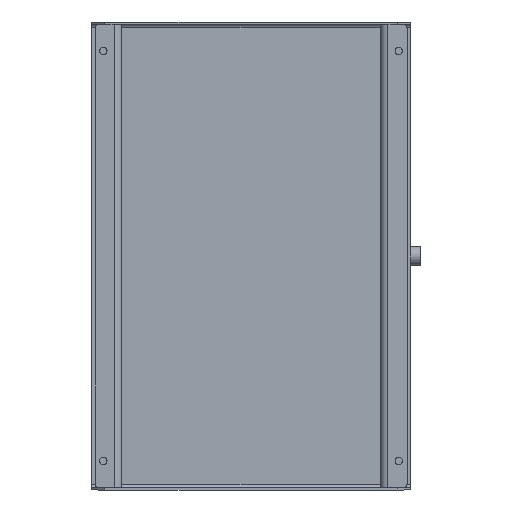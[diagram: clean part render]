
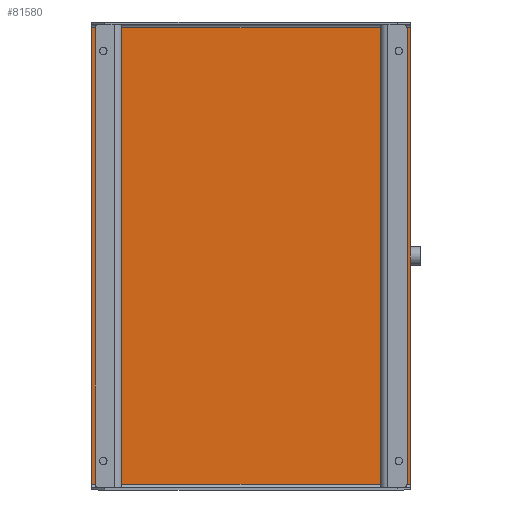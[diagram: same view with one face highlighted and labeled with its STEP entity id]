
A CAD part, front view. The second image highlights one B-rep face of the part: STEP entity #81580.
In plain terms, the highlighted planar face has unit normal (0, -1, 0).
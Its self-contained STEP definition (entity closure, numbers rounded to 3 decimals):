
#628 = VERTEX_POINT ( 'NONE', #20618 ) ;
#2181 = CARTESIAN_POINT ( 'NONE',  ( -9.533, -12.607, 26.26 ) ) ;
#2391 = CARTESIAN_POINT ( 'NONE',  ( -9.533, -12.607, -8.561 ) ) ;
#6528 = AXIS2_PLACEMENT_3D ( 'NONE', #61971, #82080, #42366 ) ;
#9014 = EDGE_CURVE ( 'NONE', #53803, #628, #15466, .T. ) ;
#14582 = ORIENTED_EDGE ( 'NONE', *, *, #9014, .F. ) ;
#15466 = LINE ( 'NONE', #18055, #31563 ) ;
#18055 = CARTESIAN_POINT ( 'NONE',  ( -33.533, -12.607, 26.26 ) ) ;
#20618 = CARTESIAN_POINT ( 'NONE',  ( -33.533, -12.607, 25.831 ) ) ;
#31563 = VECTOR ( 'NONE', #64939, 39.37 ) ;
#31803 = VERTEX_POINT ( 'NONE', #2391 ) ;
#32769 = EDGE_CURVE ( 'NONE', #86844, #31803, #83320, .T. ) ;
#34678 = LINE ( 'NONE', #35763, #85570 ) ;
#35763 = CARTESIAN_POINT ( 'NONE',  ( -9.533, -12.607, -8.561 ) ) ;
#35924 = CARTESIAN_POINT ( 'NONE',  ( -9.533, -12.607, 25.831 ) ) ;
#39748 = EDGE_CURVE ( 'NONE', #31803, #53803, #34678, .T. ) ;
#39880 = CARTESIAN_POINT ( 'NONE',  ( -33.533, -12.607, -8.561 ) ) ;
#41947 = EDGE_CURVE ( 'NONE', #628, #86844, #42810, .T. ) ;
#42366 = DIRECTION ( 'NONE',  ( 0., 0., -1. ) ) ;
#42810 = LINE ( 'NONE', #66366, #58301 ) ;
#46068 = ORIENTED_EDGE ( 'NONE', *, *, #41947, .F. ) ;
#49817 = DIRECTION ( 'NONE',  ( 0., 0., -1. ) ) ;
#50712 = FACE_OUTER_BOUND ( 'NONE', #82592, .T. ) ;
#53803 = VERTEX_POINT ( 'NONE', #39880 ) ;
#58301 = VECTOR ( 'NONE', #73096, 39.37 ) ;
#61971 = CARTESIAN_POINT ( 'NONE',  ( -33.533, -12.607, -8.99 ) ) ;
#62699 = ORIENTED_EDGE ( 'NONE', *, *, #39748, .F. ) ;
#63461 = VECTOR ( 'NONE', #49817, 39.37 ) ;
#64939 = DIRECTION ( 'NONE',  ( 0., 0., 1. ) ) ;
#66366 = CARTESIAN_POINT ( 'NONE',  ( -33.533, -12.607, 25.831 ) ) ;
#73096 = DIRECTION ( 'NONE',  ( 1., 0., 0. ) ) ;
#75359 = PLANE ( 'NONE',  #6528 ) ;
#75546 = DIRECTION ( 'NONE',  ( -1., 0., 0. ) ) ;
#81580 = ADVANCED_FACE ( 'NONE', ( #50712 ), #75359, .T. ) ;
#82080 = DIRECTION ( 'NONE',  ( 0., -1., 0. ) ) ;
#82592 = EDGE_LOOP ( 'NONE', ( #14582, #62699, #83173, #46068 ) ) ;
#83173 = ORIENTED_EDGE ( 'NONE', *, *, #32769, .F. ) ;
#83320 = LINE ( 'NONE', #2181, #63461 ) ;
#85570 = VECTOR ( 'NONE', #75546, 39.37 ) ;
#86844 = VERTEX_POINT ( 'NONE', #35924 ) ;
